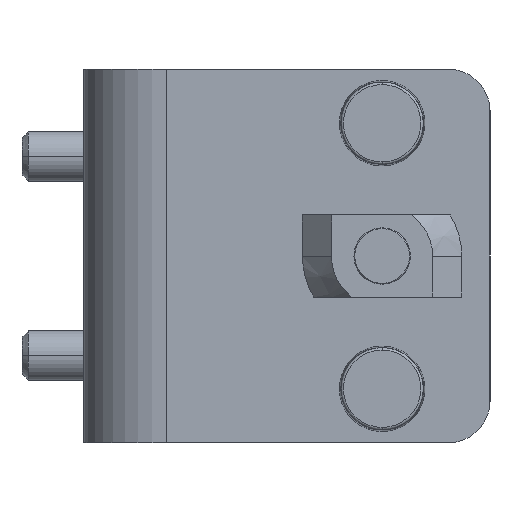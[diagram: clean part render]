
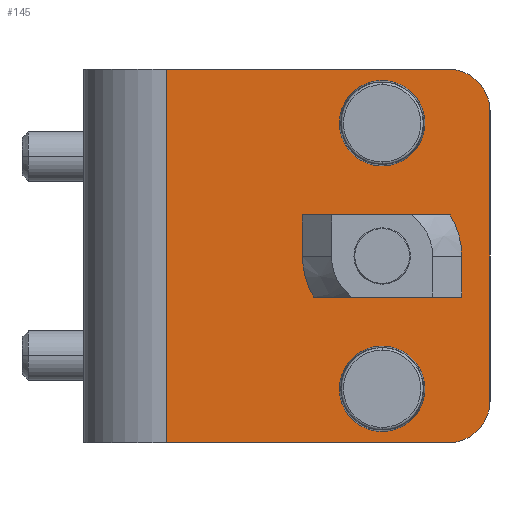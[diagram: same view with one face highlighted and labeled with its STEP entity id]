
A CAD part, left-side view. The second image highlights one B-rep face of the part: STEP entity #145.
In plain terms, the highlighted planar face has unit normal (-1, 0, 0).
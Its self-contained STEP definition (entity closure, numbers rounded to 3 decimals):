
#26 = EDGE_CURVE ( 'NONE', #3020, #2112, #2489, .T. ) ;
#123 = LINE ( 'NONE', #3658, #3066 ) ;
#128 = EDGE_CURVE ( 'NONE', #2587, #713, #431, .T. ) ;
#145 = ADVANCED_FACE ( 'NONE', ( #3213, #172, #1090, #1674 ), #763, .T. ) ;
#156 = CARTESIAN_POINT ( 'NONE',  ( 0., 0., 0. ) ) ;
#172 = FACE_OUTER_BOUND ( 'NONE', #1754, .T. ) ;
#178 = CIRCLE ( 'NONE', #1867, 5.15 ) ;
#181 = EDGE_LOOP ( 'NONE', ( #3160, #2717 ) ) ;
#185 = DIRECTION ( 'NONE',  ( -1., 0., 0. ) ) ;
#213 = CARTESIAN_POINT ( 'NONE',  ( 0., -36., 16. ) ) ;
#329 = ORIENTED_EDGE ( 'NONE', *, *, #3812, .F. ) ;
#337 = CARTESIAN_POINT ( 'NONE',  ( 0., -36., 21.15 ) ) ;
#389 = CARTESIAN_POINT ( 'NONE',  ( 0., -44., -22.5 ) ) ;
#431 = LINE ( 'NONE', #1934, #1606 ) ;
#433 = CARTESIAN_POINT ( 'NONE',  ( 0., -36., -21.15 ) ) ;
#468 = CARTESIAN_POINT ( 'NONE',  ( 0., -10., 22.5 ) ) ;
#477 = AXIS2_PLACEMENT_3D ( 'NONE', #156, #3792, #3771 ) ;
#496 = CARTESIAN_POINT ( 'NONE',  ( 0., -44., 22.5 ) ) ;
#500 = EDGE_CURVE ( 'NONE', #2533, #2604, #991, .T. ) ;
#521 = AXIS2_PLACEMENT_3D ( 'NONE', #3284, #3331, #580 ) ;
#551 = LINE ( 'NONE', #1743, #874 ) ;
#580 = DIRECTION ( 'NONE',  ( 0., -1., 0. ) ) ;
#590 = DIRECTION ( 'NONE',  ( -1., 0., 0. ) ) ;
#605 = VERTEX_POINT ( 'NONE', #496 ) ;
#614 = CARTESIAN_POINT ( 'NONE',  ( 0., -36., 10.85 ) ) ;
#618 = EDGE_CURVE ( 'NONE', #1001, #3042, #2606, .T. ) ;
#685 = VERTEX_POINT ( 'NONE', #337 ) ;
#713 = VERTEX_POINT ( 'NONE', #3275 ) ;
#763 = PLANE ( 'NONE',  #477 ) ;
#798 = CIRCLE ( 'NONE', #2300, 5. ) ;
#812 = DIRECTION ( 'NONE',  ( 0., 1., 0. ) ) ;
#838 = EDGE_CURVE ( 'NONE', #3020, #605, #798, .T. ) ;
#872 = DIRECTION ( 'NONE',  ( 0., -1., 0. ) ) ;
#874 = VECTOR ( 'NONE', #2961, 1000. ) ;
#929 = AXIS2_PLACEMENT_3D ( 'NONE', #2941, #590, #872 ) ;
#991 = CIRCLE ( 'NONE', #3192, 5.15 ) ;
#1001 = VERTEX_POINT ( 'NONE', #2895 ) ;
#1030 = CIRCLE ( 'NONE', #521, 5.15 ) ;
#1090 = FACE_BOUND ( 'NONE', #181, .T. ) ;
#1123 = CIRCLE ( 'NONE', #2135, 4. ) ;
#1196 = EDGE_LOOP ( 'NONE', ( #3752, #329 ) ) ;
#1209 = DIRECTION ( 'NONE',  ( 0., -1., 0. ) ) ;
#1213 = ORIENTED_EDGE ( 'NONE', *, *, #128, .T. ) ;
#1223 = ORIENTED_EDGE ( 'NONE', *, *, #500, .F. ) ;
#1245 = EDGE_CURVE ( 'NONE', #3252, #713, #123, .T. ) ;
#1331 = ORIENTED_EDGE ( 'NONE', *, *, #26, .F. ) ;
#1465 = ORIENTED_EDGE ( 'NONE', *, *, #3868, .F. ) ;
#1606 = VECTOR ( 'NONE', #2594, 1000. ) ;
#1674 = FACE_BOUND ( 'NONE', #1196, .T. ) ;
#1683 = DIRECTION ( 'NONE',  ( 0., -1., 0. ) ) ;
#1708 = CARTESIAN_POINT ( 'NONE',  ( 0., -36., 0. ) ) ;
#1743 = CARTESIAN_POINT ( 'NONE',  ( 0., -49., 22.5 ) ) ;
#1754 = EDGE_LOOP ( 'NONE', ( #3542, #3468, #1331, #1862, #2965, #1213 ) ) ;
#1833 = CARTESIAN_POINT ( 'NONE',  ( 0., -49., -22.5 ) ) ;
#1840 = CARTESIAN_POINT ( 'NONE',  ( 0., -44., 17.5 ) ) ;
#1862 = ORIENTED_EDGE ( 'NONE', *, *, #838, .T. ) ;
#1867 = AXIS2_PLACEMENT_3D ( 'NONE', #213, #3538, #2263 ) ;
#1898 = DIRECTION ( 'NONE',  ( 0., 1., 0. ) ) ;
#1934 = CARTESIAN_POINT ( 'NONE',  ( 0., -10., 0. ) ) ;
#1941 = EDGE_CURVE ( 'NONE', #2037, #685, #3649, .T. ) ;
#2003 = DIRECTION ( 'NONE',  ( -1., 0., 0. ) ) ;
#2037 = VERTEX_POINT ( 'NONE', #614 ) ;
#2112 = VERTEX_POINT ( 'NONE', #3360 ) ;
#2135 = AXIS2_PLACEMENT_3D ( 'NONE', #1708, #2927, #1209 ) ;
#2208 = EDGE_LOOP ( 'NONE', ( #1223, #1465 ) ) ;
#2258 = CARTESIAN_POINT ( 'NONE',  ( 0., -36., -10.85 ) ) ;
#2261 = EDGE_CURVE ( 'NONE', #685, #2037, #178, .T. ) ;
#2263 = DIRECTION ( 'NONE',  ( 0., -1., 0. ) ) ;
#2300 = AXIS2_PLACEMENT_3D ( 'NONE', #1840, #3063, #2531 ) ;
#2489 = LINE ( 'NONE', #1833, #3887 ) ;
#2531 = DIRECTION ( 'NONE',  ( 0., 1., 0. ) ) ;
#2533 = VERTEX_POINT ( 'NONE', #433 ) ;
#2587 = VERTEX_POINT ( 'NONE', #468 ) ;
#2589 = DIRECTION ( 'NONE',  ( -1., 0., 0. ) ) ;
#2594 = DIRECTION ( 'NONE',  ( 0., 0., -1. ) ) ;
#2604 = VERTEX_POINT ( 'NONE', #2258 ) ;
#2606 = CIRCLE ( 'NONE', #2997, 4. ) ;
#2609 = DIRECTION ( 'NONE',  ( 0., -1., 0. ) ) ;
#2621 = AXIS2_PLACEMENT_3D ( 'NONE', #3522, #185, #812 ) ;
#2717 = ORIENTED_EDGE ( 'NONE', *, *, #2261, .F. ) ;
#2755 = DIRECTION ( 'NONE',  ( 0., 0., -1. ) ) ;
#2895 = CARTESIAN_POINT ( 'NONE',  ( 0., -36., -4. ) ) ;
#2927 = DIRECTION ( 'NONE',  ( -1., 0., 0. ) ) ;
#2941 = CARTESIAN_POINT ( 'NONE',  ( 0., -36., 16. ) ) ;
#2961 = DIRECTION ( 'NONE',  ( 0., -1., 0. ) ) ;
#2965 = ORIENTED_EDGE ( 'NONE', *, *, #3641, .F. ) ;
#2997 = AXIS2_PLACEMENT_3D ( 'NONE', #3498, #2589, #1683 ) ;
#3020 = VERTEX_POINT ( 'NONE', #3529 ) ;
#3042 = VERTEX_POINT ( 'NONE', #3153 ) ;
#3063 = DIRECTION ( 'NONE',  ( -1., 0., 0. ) ) ;
#3066 = VECTOR ( 'NONE', #1898, 1000. ) ;
#3153 = CARTESIAN_POINT ( 'NONE',  ( 0., -36., 4. ) ) ;
#3160 = ORIENTED_EDGE ( 'NONE', *, *, #1941, .F. ) ;
#3192 = AXIS2_PLACEMENT_3D ( 'NONE', #3482, #2003, #2609 ) ;
#3213 = FACE_BOUND ( 'NONE', #2208, .T. ) ;
#3252 = VERTEX_POINT ( 'NONE', #389 ) ;
#3275 = CARTESIAN_POINT ( 'NONE',  ( 0., -10., -22.5 ) ) ;
#3284 = CARTESIAN_POINT ( 'NONE',  ( 0., -36., -16. ) ) ;
#3331 = DIRECTION ( 'NONE',  ( -1., 0., 0. ) ) ;
#3360 = CARTESIAN_POINT ( 'NONE',  ( 0., -49., -17.5 ) ) ;
#3468 = ORIENTED_EDGE ( 'NONE', *, *, #3524, .T. ) ;
#3482 = CARTESIAN_POINT ( 'NONE',  ( 0., -36., -16. ) ) ;
#3498 = CARTESIAN_POINT ( 'NONE',  ( 0., -36., 0. ) ) ;
#3522 = CARTESIAN_POINT ( 'NONE',  ( 0., -44., -17.5 ) ) ;
#3524 = EDGE_CURVE ( 'NONE', #3252, #2112, #3731, .T. ) ;
#3529 = CARTESIAN_POINT ( 'NONE',  ( 0., -49., 17.5 ) ) ;
#3538 = DIRECTION ( 'NONE',  ( -1., 0., 0. ) ) ;
#3542 = ORIENTED_EDGE ( 'NONE', *, *, #1245, .F. ) ;
#3641 = EDGE_CURVE ( 'NONE', #2587, #605, #551, .T. ) ;
#3649 = CIRCLE ( 'NONE', #929, 5.15 ) ;
#3658 = CARTESIAN_POINT ( 'NONE',  ( 0., -5., -22.5 ) ) ;
#3731 = CIRCLE ( 'NONE', #2621, 5. ) ;
#3752 = ORIENTED_EDGE ( 'NONE', *, *, #618, .F. ) ;
#3771 = DIRECTION ( 'NONE',  ( 0., 1., 0. ) ) ;
#3792 = DIRECTION ( 'NONE',  ( -1., 0., 0. ) ) ;
#3812 = EDGE_CURVE ( 'NONE', #3042, #1001, #1123, .T. ) ;
#3868 = EDGE_CURVE ( 'NONE', #2604, #2533, #1030, .T. ) ;
#3887 = VECTOR ( 'NONE', #2755, 1000. ) ;
